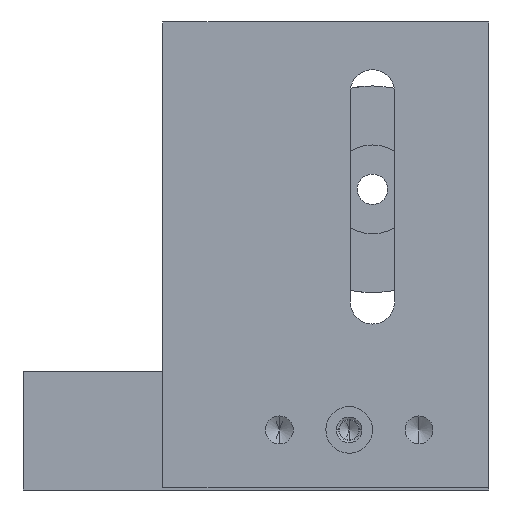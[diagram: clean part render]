
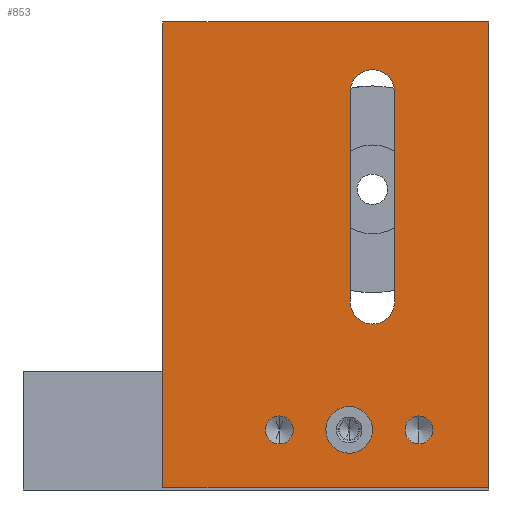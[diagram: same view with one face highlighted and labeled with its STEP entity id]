
A CAD part, front view. The second image highlights one B-rep face of the part: STEP entity #853.
In plain terms, the highlighted planar face has unit normal (0, -1, 0) as drawn and (0, 0, 1) by its records, which use the part's own axes.
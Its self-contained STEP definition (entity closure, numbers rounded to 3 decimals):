
#49 = DIRECTION ( 'NONE',  ( 0., -1., 0. ) ) ;
#51 = CARTESIAN_POINT ( 'NONE',  ( 70., 0., 12.7 ) ) ;
#56 = EDGE_LOOP ( 'NONE', ( #2633, #125 ) ) ;
#87 = LINE ( 'NONE', #1090, #1395 ) ;
#104 = CARTESIAN_POINT ( 'NONE',  ( 40.238, 85., 12.7 ) ) ;
#121 = CARTESIAN_POINT ( 'NONE',  ( 49.763, 85., 12.7 ) ) ;
#125 = ORIENTED_EDGE ( 'NONE', *, *, #819, .F. ) ;
#142 = ORIENTED_EDGE ( 'NONE', *, *, #3125, .T. ) ;
#204 = VECTOR ( 'NONE', #1521, 1000. ) ;
#230 = FACE_BOUND ( 'NONE', #2147, .T. ) ;
#241 = CARTESIAN_POINT ( 'NONE',  ( 45., 85., 12.7 ) ) ;
#245 = DIRECTION ( 'NONE',  ( 1., 0., 0. ) ) ;
#285 = LINE ( 'NONE', #2491, #2697 ) ;
#290 = CARTESIAN_POINT ( 'NONE',  ( 70., 0., 12.7 ) ) ;
#294 = ORIENTED_EDGE ( 'NONE', *, *, #3073, .F. ) ;
#318 = LINE ( 'NONE', #2050, #1752 ) ;
#345 = LINE ( 'NONE', #1330, #1094 ) ;
#371 = CARTESIAN_POINT ( 'NONE',  ( 55., 12.4, 12.7 ) ) ;
#418 = VECTOR ( 'NONE', #1535, 1000. ) ;
#444 = ORIENTED_EDGE ( 'NONE', *, *, #2620, .T. ) ;
#460 = ORIENTED_EDGE ( 'NONE', *, *, #2445, .T. ) ;
#473 = AXIS2_PLACEMENT_3D ( 'NONE', #506, #768, #492 ) ;
#492 = DIRECTION ( 'NONE',  ( 1., 0., 0. ) ) ;
#496 = DIRECTION ( 'NONE',  ( 0., 0., 1. ) ) ;
#506 = CARTESIAN_POINT ( 'NONE',  ( 25., 12.4, 12.7 ) ) ;
#531 = DIRECTION ( 'NONE',  ( 0., 0., 1. ) ) ;
#554 = CARTESIAN_POINT ( 'NONE',  ( 40.238, 39.9, 12.7 ) ) ;
#558 = CARTESIAN_POINT ( 'NONE',  ( 25., 12.4, 12.7 ) ) ;
#609 = ORIENTED_EDGE ( 'NONE', *, *, #1751, .T. ) ;
#676 = ORIENTED_EDGE ( 'NONE', *, *, #1964, .T. ) ;
#689 = VERTEX_POINT ( 'NONE', #104 ) ;
#706 = EDGE_LOOP ( 'NONE', ( #460, #609, #676, #2854 ) ) ;
#709 = CARTESIAN_POINT ( 'NONE',  ( 0., 0., 12.7 ) ) ;
#720 = VERTEX_POINT ( 'NONE', #2364 ) ;
#726 = CIRCLE ( 'NONE', #2740, 3. ) ;
#728 = CARTESIAN_POINT ( 'NONE',  ( 45., 12.4, 12.7 ) ) ;
#768 = DIRECTION ( 'NONE',  ( 0., 0., 1. ) ) ;
#773 = CIRCLE ( 'NONE', #1437, 5. ) ;
#776 = CARTESIAN_POINT ( 'NONE',  ( 45., 39.9, 12.7 ) ) ;
#778 = AXIS2_PLACEMENT_3D ( 'NONE', #3185, #973, #1476 ) ;
#816 = VERTEX_POINT ( 'NONE', #2721 ) ;
#819 = EDGE_CURVE ( 'NONE', #1643, #857, #2933, .T. ) ;
#843 = CIRCLE ( 'NONE', #473, 3. ) ;
#853 = ADVANCED_FACE ( 'NONE', ( #1991, #230, #2936, #3200, #1688 ), #1207, .F. ) ;
#857 = VERTEX_POINT ( 'NONE', #728 ) ;
#869 = DIRECTION ( 'NONE',  ( 1., 0., 0. ) ) ;
#885 = CARTESIAN_POINT ( 'NONE',  ( 49.762, 39.9, 12.7 ) ) ;
#973 = DIRECTION ( 'NONE',  ( 0., 0., -1. ) ) ;
#1006 = EDGE_CURVE ( 'NONE', #2077, #2098, #318, .T. ) ;
#1056 = DIRECTION ( 'NONE',  ( 0., 0., 1. ) ) ;
#1059 = ORIENTED_EDGE ( 'NONE', *, *, #1006, .T. ) ;
#1067 = CARTESIAN_POINT ( 'NONE',  ( 55., 12.4, 12.7 ) ) ;
#1073 = DIRECTION ( 'NONE',  ( 0., 0., 1. ) ) ;
#1090 = CARTESIAN_POINT ( 'NONE',  ( 0., 100., 12.7 ) ) ;
#1094 = VECTOR ( 'NONE', #1380, 1000. ) ;
#1144 = ORIENTED_EDGE ( 'NONE', *, *, #2774, .F. ) ;
#1196 = DIRECTION ( 'NONE',  ( 1., 0., 0. ) ) ;
#1207 = PLANE ( 'NONE',  #778 ) ;
#1218 = EDGE_LOOP ( 'NONE', ( #444, #142, #1059, #2632 ) ) ;
#1253 = DIRECTION ( 'NONE',  ( 1., 0., 0. ) ) ;
#1254 = VERTEX_POINT ( 'NONE', #1892 ) ;
#1330 = CARTESIAN_POINT ( 'NONE',  ( 40.238, 85., 12.7 ) ) ;
#1380 = DIRECTION ( 'NONE',  ( 0., 1., 0. ) ) ;
#1395 = VECTOR ( 'NONE', #2303, 1000. ) ;
#1437 = AXIS2_PLACEMENT_3D ( 'NONE', #2593, #1056, #2569 ) ;
#1476 = DIRECTION ( 'NONE',  ( -1., 0., 0. ) ) ;
#1486 = VERTEX_POINT ( 'NONE', #51 ) ;
#1496 = CIRCLE ( 'NONE', #3214, 3. ) ;
#1521 = DIRECTION ( 'NONE',  ( 1., 0., 0. ) ) ;
#1528 = EDGE_CURVE ( 'NONE', #857, #1643, #773, .T. ) ;
#1535 = DIRECTION ( 'NONE',  ( 0., 1., 0. ) ) ;
#1552 = CIRCLE ( 'NONE', #2227, 4.762 ) ;
#1643 = VERTEX_POINT ( 'NONE', #2624 ) ;
#1673 = AXIS2_PLACEMENT_3D ( 'NONE', #241, #2716, #1724 ) ;
#1688 = FACE_OUTER_BOUND ( 'NONE', #706, .T. ) ;
#1724 = DIRECTION ( 'NONE',  ( -1., 0., 0. ) ) ;
#1751 = EDGE_CURVE ( 'NONE', #2682, #1486, #2548, .T. ) ;
#1752 = VECTOR ( 'NONE', #2799, 1000. ) ;
#1755 = VERTEX_POINT ( 'NONE', #554 ) ;
#1781 = DIRECTION ( 'NONE',  ( -1., 0., 0. ) ) ;
#1786 = CARTESIAN_POINT ( 'NONE',  ( 52., 12.4, 12.7 ) ) ;
#1791 = DIRECTION ( 'NONE',  ( 0., 0., 1. ) ) ;
#1869 = EDGE_CURVE ( 'NONE', #816, #1254, #87, .T. ) ;
#1892 = CARTESIAN_POINT ( 'NONE',  ( 0., 100., 12.7 ) ) ;
#1907 = VERTEX_POINT ( 'NONE', #1786 ) ;
#1924 = CIRCLE ( 'NONE', #2651, 3. ) ;
#1964 = EDGE_CURVE ( 'NONE', #1486, #816, #3026, .T. ) ;
#1991 = FACE_BOUND ( 'NONE', #1218, .T. ) ;
#2006 = DIRECTION ( 'NONE',  ( 0., 0., -1. ) ) ;
#2021 = ORIENTED_EDGE ( 'NONE', *, *, #2057, .F. ) ;
#2050 = CARTESIAN_POINT ( 'NONE',  ( 49.763, 85., 12.7 ) ) ;
#2057 = EDGE_CURVE ( 'NONE', #720, #1907, #726, .T. ) ;
#2077 = VERTEX_POINT ( 'NONE', #121 ) ;
#2098 = VERTEX_POINT ( 'NONE', #885 ) ;
#2147 = EDGE_LOOP ( 'NONE', ( #1144, #294 ) ) ;
#2225 = CARTESIAN_POINT ( 'NONE',  ( 28., 12.4, 12.7 ) ) ;
#2227 = AXIS2_PLACEMENT_3D ( 'NONE', #776, #2006, #1781 ) ;
#2303 = DIRECTION ( 'NONE',  ( -1., 0., 0. ) ) ;
#2326 = EDGE_CURVE ( 'NONE', #2098, #1755, #1552, .T. ) ;
#2364 = CARTESIAN_POINT ( 'NONE',  ( 58., 12.4, 12.7 ) ) ;
#2409 = VERTEX_POINT ( 'NONE', #2505 ) ;
#2445 = EDGE_CURVE ( 'NONE', #1254, #2682, #285, .T. ) ;
#2491 = CARTESIAN_POINT ( 'NONE',  ( 0., 0., 12.7 ) ) ;
#2505 = CARTESIAN_POINT ( 'NONE',  ( 22., 12.4, 12.7 ) ) ;
#2548 = LINE ( 'NONE', #3042, #204 ) ;
#2569 = DIRECTION ( 'NONE',  ( 1., 0., 0. ) ) ;
#2593 = CARTESIAN_POINT ( 'NONE',  ( 40., 12.4, 12.7 ) ) ;
#2620 = EDGE_CURVE ( 'NONE', #1755, #689, #345, .T. ) ;
#2624 = CARTESIAN_POINT ( 'NONE',  ( 35., 12.4, 12.7 ) ) ;
#2632 = ORIENTED_EDGE ( 'NONE', *, *, #2326, .T. ) ;
#2633 = ORIENTED_EDGE ( 'NONE', *, *, #1528, .F. ) ;
#2651 = AXIS2_PLACEMENT_3D ( 'NONE', #558, #1791, #1253 ) ;
#2664 = CARTESIAN_POINT ( 'NONE',  ( 40., 12.4, 12.7 ) ) ;
#2682 = VERTEX_POINT ( 'NONE', #709 ) ;
#2697 = VECTOR ( 'NONE', #49, 1000. ) ;
#2716 = DIRECTION ( 'NONE',  ( 0., 0., -1. ) ) ;
#2721 = CARTESIAN_POINT ( 'NONE',  ( 70., 100., 12.7 ) ) ;
#2740 = AXIS2_PLACEMENT_3D ( 'NONE', #371, #1073, #869 ) ;
#2764 = EDGE_CURVE ( 'NONE', #1907, #720, #1496, .T. ) ;
#2774 = EDGE_CURVE ( 'NONE', #3151, #2409, #1924, .T. ) ;
#2786 = AXIS2_PLACEMENT_3D ( 'NONE', #2664, #496, #1196 ) ;
#2799 = DIRECTION ( 'NONE',  ( 0., -1., 0. ) ) ;
#2814 = ORIENTED_EDGE ( 'NONE', *, *, #2764, .F. ) ;
#2854 = ORIENTED_EDGE ( 'NONE', *, *, #1869, .T. ) ;
#2933 = CIRCLE ( 'NONE', #2786, 5. ) ;
#2936 = FACE_BOUND ( 'NONE', #3105, .T. ) ;
#3026 = LINE ( 'NONE', #290, #418 ) ;
#3042 = CARTESIAN_POINT ( 'NONE',  ( 0., 0., 12.7 ) ) ;
#3059 = CIRCLE ( 'NONE', #1673, 4.762 ) ;
#3073 = EDGE_CURVE ( 'NONE', #2409, #3151, #843, .T. ) ;
#3105 = EDGE_LOOP ( 'NONE', ( #2021, #2814 ) ) ;
#3125 = EDGE_CURVE ( 'NONE', #689, #2077, #3059, .T. ) ;
#3151 = VERTEX_POINT ( 'NONE', #2225 ) ;
#3185 = CARTESIAN_POINT ( 'NONE',  ( 0., 0., 12.7 ) ) ;
#3200 = FACE_BOUND ( 'NONE', #56, .T. ) ;
#3214 = AXIS2_PLACEMENT_3D ( 'NONE', #1067, #531, #245 ) ;
